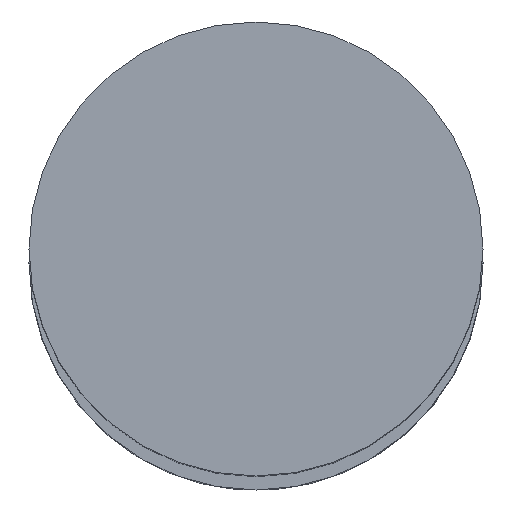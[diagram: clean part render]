
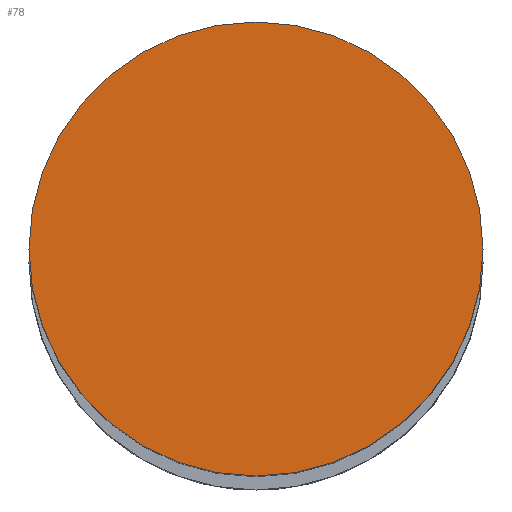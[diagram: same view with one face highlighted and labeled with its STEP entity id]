
A CAD part, top view. The second image highlights one B-rep face of the part: STEP entity #78.
In plain terms, the highlighted planar face has unit normal (0, 0, 1).
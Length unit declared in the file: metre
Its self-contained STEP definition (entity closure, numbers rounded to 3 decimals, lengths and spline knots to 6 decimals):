
#78=ADVANCED_FACE('0:129',(#162),#163,.T.);
#162=FACE_OUTER_BOUND('',#263,.T.);
#163=PLANE('',#264);
#263=EDGE_LOOP('',(#390,#391));
#264=AXIS2_PLACEMENT_3D('',#392,#393,#394);
#390=ORIENTED_EDGE('',*,*,#587,.F.);
#391=ORIENTED_EDGE('',*,*,#555,.F.);
#392=CARTESIAN_POINT('',(0.,0.,0.21));
#393=DIRECTION('',(0.0,0.0,1.0));
#394=DIRECTION('',(1.0,0.0,0.0));
#555=EDGE_CURVE('',#646,#648,#649,.F.);
#587=EDGE_CURVE('',#648,#646,#702,.F.);
#646=VERTEX_POINT('',#783);
#648=VERTEX_POINT('',#786);
#649=CIRCLE('',#787,0.008);
#702=CIRCLE('',#851,0.008);
#783=CARTESIAN_POINT('',(0.00789,0.000133,0.21));
#786=CARTESIAN_POINT('',(-0.00811,0.000133,0.21));
#787=AXIS2_PLACEMENT_3D('',#942,#943,#944);
#851=AXIS2_PLACEMENT_3D('',#995,#996,#997);
#942=CARTESIAN_POINT('',(-0.00011,0.000133,0.21));
#943=DIRECTION('',(0.0,0.0,1.0));
#944=DIRECTION('',(1.0,0.0,0.0));
#995=CARTESIAN_POINT('',(-0.00011,0.000133,0.21));
#996=DIRECTION('',(0.0,0.0,1.0));
#997=DIRECTION('',(1.0,0.0,0.0));
